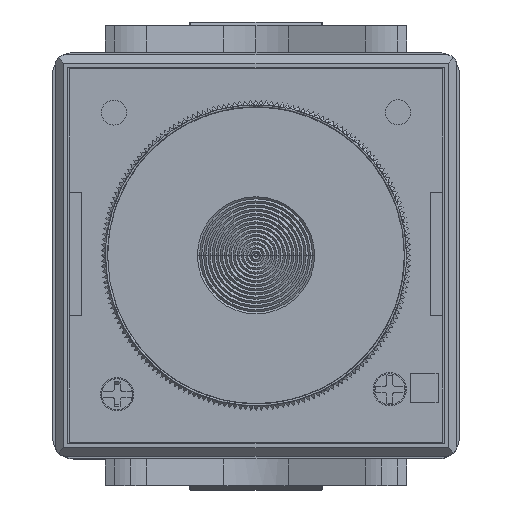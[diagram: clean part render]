
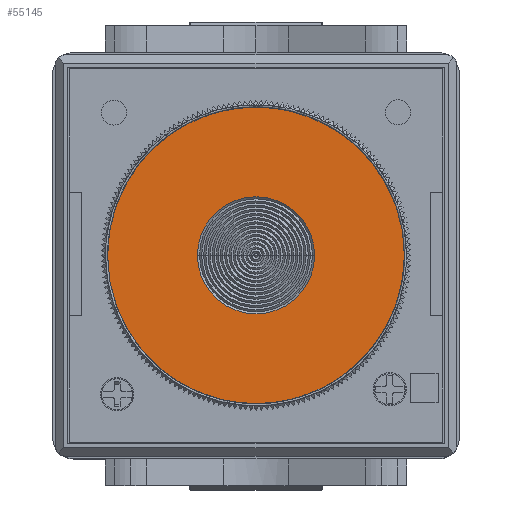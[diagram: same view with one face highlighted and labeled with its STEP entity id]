
A CAD part, top view. The second image highlights one B-rep face of the part: STEP entity #55145.
In plain terms, the highlighted planar face has unit normal (0, 0, 1).
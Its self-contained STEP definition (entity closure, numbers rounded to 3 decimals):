
#4722 = VERTEX_POINT ( 'NONE', #69698 ) ;
#6414 = FACE_BOUND ( 'NONE', #97598, .T. ) ;
#6499 = DIRECTION ( 'NONE',  ( 1., 0., 0. ) ) ;
#12608 = PLANE ( 'NONE',  #102615 ) ;
#22150 = DIRECTION ( 'NONE',  ( 0., 0., -1. ) ) ;
#22276 = EDGE_CURVE ( 'NONE', #64071, #25860, #39707, .T. ) ;
#22714 = CARTESIAN_POINT ( 'NONE',  ( -78.669, 14.861, 39.527 ) ) ;
#25860 = VERTEX_POINT ( 'NONE', #74774 ) ;
#26866 = DIRECTION ( 'NONE',  ( 1., 0., 0. ) ) ;
#27949 = CARTESIAN_POINT ( 'NONE',  ( -78.669, 14.861, 39.527 ) ) ;
#28023 = EDGE_LOOP ( 'NONE', ( #46495, #68306 ) ) ;
#32916 = AXIS2_PLACEMENT_3D ( 'NONE', #47246, #22150, #104049 ) ;
#34112 = DIRECTION ( 'NONE',  ( 1., 0., 0. ) ) ;
#39707 = CIRCLE ( 'NONE', #95277, 17.75 ) ;
#40219 = VERTEX_POINT ( 'NONE', #84546 ) ;
#44817 = CIRCLE ( 'NONE', #32916, 7. ) ;
#44831 = CARTESIAN_POINT ( 'NONE',  ( -78.669, 14.861, 39.527 ) ) ;
#45726 = CIRCLE ( 'NONE', #86169, 7. ) ;
#46495 = ORIENTED_EDGE ( 'NONE', *, *, #104001, .T. ) ;
#47246 = CARTESIAN_POINT ( 'NONE',  ( -78.669, 14.861, 39.527 ) ) ;
#50897 = AXIS2_PLACEMENT_3D ( 'NONE', #27949, #76238, #26866 ) ;
#55145 = ADVANCED_FACE ( 'NONE', ( #67972, #6414 ), #12608, .T. ) ;
#55334 = DIRECTION ( 'NONE',  ( 0., 0., -1. ) ) ;
#55659 = CARTESIAN_POINT ( 'NONE',  ( -96.419, 14.861, 39.527 ) ) ;
#64071 = VERTEX_POINT ( 'NONE', #55659 ) ;
#66822 = CIRCLE ( 'NONE', #50897, 17.75 ) ;
#67972 = FACE_OUTER_BOUND ( 'NONE', #28023, .T. ) ;
#68306 = ORIENTED_EDGE ( 'NONE', *, *, #22276, .T. ) ;
#69698 = CARTESIAN_POINT ( 'NONE',  ( -85.669, 14.861, 39.527 ) ) ;
#69896 = CARTESIAN_POINT ( 'NONE',  ( -78.669, 14.861, 39.527 ) ) ;
#74774 = CARTESIAN_POINT ( 'NONE',  ( -60.919, 14.861, 39.527 ) ) ;
#75099 = EDGE_CURVE ( 'NONE', #4722, #40219, #44817, .T. ) ;
#76238 = DIRECTION ( 'NONE',  ( 0., 0., 1. ) ) ;
#80315 = DIRECTION ( 'NONE',  ( 1., 0., 0. ) ) ;
#82565 = ORIENTED_EDGE ( 'NONE', *, *, #91326, .T. ) ;
#84546 = CARTESIAN_POINT ( 'NONE',  ( -71.669, 14.861, 39.527 ) ) ;
#84897 = DIRECTION ( 'NONE',  ( 0., 0., 1. ) ) ;
#86169 = AXIS2_PLACEMENT_3D ( 'NONE', #22714, #55334, #80315 ) ;
#91326 = EDGE_CURVE ( 'NONE', #40219, #4722, #45726, .T. ) ;
#95277 = AXIS2_PLACEMENT_3D ( 'NONE', #44831, #84897, #34112 ) ;
#97420 = ORIENTED_EDGE ( 'NONE', *, *, #75099, .T. ) ;
#97598 = EDGE_LOOP ( 'NONE', ( #82565, #97420 ) ) ;
#102615 = AXIS2_PLACEMENT_3D ( 'NONE', #69896, #104600, #6499 ) ;
#104001 = EDGE_CURVE ( 'NONE', #25860, #64071, #66822, .T. ) ;
#104049 = DIRECTION ( 'NONE',  ( 1., 0., 0. ) ) ;
#104600 = DIRECTION ( 'NONE',  ( 0., 0., 1. ) ) ;
